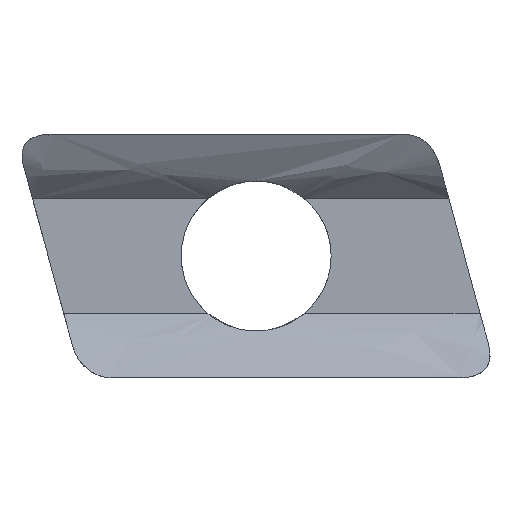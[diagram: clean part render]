
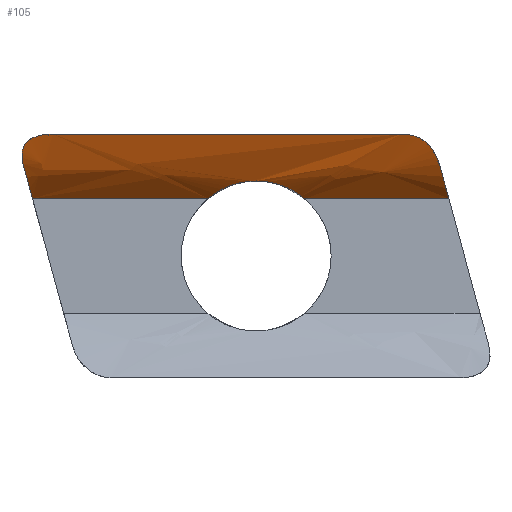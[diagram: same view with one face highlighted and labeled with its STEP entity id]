
A CAD part, top view. The second image highlights one B-rep face of the part: STEP entity #105.
In plain terms, the highlighted free-form (B-spline) face has degree [2, 1] with [3, 2] control points.
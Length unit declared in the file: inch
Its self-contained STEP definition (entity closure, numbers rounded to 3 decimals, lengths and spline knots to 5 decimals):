
#105=ADVANCED_FACE('',(#204),#205,.T.);
#204=FACE_OUTER_BOUND('',#1822,.T.);
#205=B_SPLINE_SURFACE_WITH_KNOTS('',2,1,((#1823,#1824),(#1825,#1826),(#1827,#1828)),.UNSPECIFIED.,.F.,.F.,.F.,(3,3),(2,2),(0.0,1.0),(0.0,0.79659),.UNSPECIFIED.);
#1822=EDGE_LOOP('',(#2046,#2047,#2048,#2049,#2050,#2051,#2052,#2053,#2054,#2055,#2056));
#1823=CARTESIAN_POINT('',(-0.14909,0.40601,0.14228));
#1824=CARTESIAN_POINT('',(0.6475,0.40601,0.14228));
#1825=CARTESIAN_POINT('',(-0.14909,0.3412,0.11913));
#1826=CARTESIAN_POINT('',(0.6475,0.3412,0.11913));
#1827=CARTESIAN_POINT('',(-0.14909,0.29872,0.0666));
#1828=CARTESIAN_POINT('',(0.6475,0.29872,0.0666));
#2046=ORIENTED_EDGE('',*,*,#2162,.T.);
#2047=ORIENTED_EDGE('',*,*,#2179,.T.);
#2048=ORIENTED_EDGE('',*,*,#2125,.T.);
#2049=ORIENTED_EDGE('',*,*,#2167,.T.);
#2050=ORIENTED_EDGE('',*,*,#2174,.F.);
#2051=ORIENTED_EDGE('',*,*,#2134,.T.);
#2052=ORIENTED_EDGE('',*,*,#2130,.T.);
#2053=ORIENTED_EDGE('',*,*,#2177,.T.);
#2054=ORIENTED_EDGE('',*,*,#2148,.T.);
#2055=ORIENTED_EDGE('',*,*,#2172,.T.);
#2056=ORIENTED_EDGE('',*,*,#2086,.T.);
#2086=EDGE_CURVE('',#2206,#2204,#2207,.T.);
#2125=EDGE_CURVE('',#2271,#2269,#2272,.T.);
#2130=EDGE_CURVE('',#2275,#2277,#2279,.T.);
#2134=EDGE_CURVE('',#2283,#2275,#2284,.T.);
#2148=EDGE_CURVE('',#2303,#2304,#2305,.T.);
#2162=EDGE_CURVE('',#2204,#2322,#2324,.T.);
#2167=EDGE_CURVE('',#2269,#2329,#2330,.T.);
#2172=EDGE_CURVE('',#2304,#2206,#2335,.T.);
#2174=EDGE_CURVE('',#2283,#2329,#2337,.T.);
#2177=EDGE_CURVE('',#2277,#2303,#2340,.T.);
#2179=EDGE_CURVE('',#2322,#2271,#2342,.T.);
#2204=VERTEX_POINT('',#2410);
#2206=VERTEX_POINT('',#2413);
#2207=B_SPLINE_CURVE_WITH_KNOTS('',3,(#2414,#2415,#2416,#2417,#2418,#2419,#2420,#2421),.UNSPECIFIED.,.F.,.F.,(4,2,2,4),(0.0,0.06845,0.11211,0.15591),.UNSPECIFIED.);
#2269=VERTEX_POINT('',#2742);
#2271=VERTEX_POINT('',#2745);
#2272=B_SPLINE_CURVE_WITH_KNOTS('',3,(#2746,#2747,#2748,#2749,#2750,#2751),.UNSPECIFIED.,.F.,.F.,(4,2,4),(-0.13499,-0.06887,-0.0),.UNSPECIFIED.);
#2275=VERTEX_POINT('',#2755);
#2277=VERTEX_POINT('',#2758);
#2279=B_SPLINE_CURVE_WITH_KNOTS('',2,(#2761,#2762,#2763),.UNSPECIFIED.,.F.,.F.,(3,3),(0.0,1.0),.UNSPECIFIED.);
#2283=VERTEX_POINT('',#2770);
#2284=B_SPLINE_CURVE_WITH_KNOTS('',3,(#2771,#2772,#2773,#2774,#2775,#2776,#2777,#2778,#2779,#2780),.UNSPECIFIED.,.F.,.F.,(4,2,2,2,4),(0.0,0.02752,0.04298,0.05524,0.06948),.UNSPECIFIED.);
#2303=VERTEX_POINT('',#2842);
#2304=VERTEX_POINT('',#2843);
#2305=B_SPLINE_CURVE_WITH_KNOTS('',3,(#2844,#2845,#2846,#2847),.UNSPECIFIED.,.F.,.F.,(4,4),(-0.08801,-0.0),.UNSPECIFIED.);
#2322=VERTEX_POINT('',#2896);
#2324=B_SPLINE_CURVE_WITH_KNOTS('',3,(#2901,#2902,#2903,#2904,#2905,#2906,#2907,#2908),.UNSPECIFIED.,.F.,.F.,(4,2,2,4),(0.0,0.05581,0.09761,0.14261),.UNSPECIFIED.);
#2329=VERTEX_POINT('',#3048);
#2330=B_SPLINE_CURVE_WITH_KNOTS('',3,(#3049,#3050,#3051,#3052,#3053,#3054,#3055,#3056,#3057,#3058),.UNSPECIFIED.,.F.,.F.,(4,2,2,2,4),(0.0,0.03512,0.05833,0.07586,0.09353),.UNSPECIFIED.);
#2335=LINE('',#3064,#3065);
#2337=LINE('',#3067,#3068);
#2340=B_SPLINE_CURVE_WITH_KNOTS('',3,(#3071,#3072,#3073,#3074),.UNSPECIFIED.,.F.,.F.,(4,4),(0.0,0.01259),.UNSPECIFIED.);
#2342=LINE('',#3076,#3077);
#2410=CARTESIAN_POINT('',(0.24126,0.328,0.09704));
#2413=CARTESIAN_POINT('',(0.16086,0.29872,0.0666));
#2414=CARTESIAN_POINT('',(0.16086,0.29872,0.0666));
#2415=CARTESIAN_POINT('',(0.16993,0.30635,0.07603));
#2416=CARTESIAN_POINT('',(0.18044,0.31297,0.08289));
#2417=CARTESIAN_POINT('',(0.19945,0.32112,0.09086));
#2418=CARTESIAN_POINT('',(0.20737,0.32365,0.09317));
#2419=CARTESIAN_POINT('',(0.22401,0.32712,0.09628));
#2420=CARTESIAN_POINT('',(0.2326,0.328,0.09704));
#2421=CARTESIAN_POINT('',(0.24126,0.328,0.09704));
#2742=CARTESIAN_POINT('',(0.54678,0.35598,0.11795));
#2745=CARTESIAN_POINT('',(0.56238,0.29872,0.0666));
#2746=CARTESIAN_POINT('',(0.56238,0.29872,0.0666));
#2747=CARTESIAN_POINT('',(0.55866,0.31238,0.08349));
#2748=CARTESIAN_POINT('',(0.55443,0.32791,0.09827));
#2749=CARTESIAN_POINT('',(0.5447,0.36362,0.12385));
#2750=CARTESIAN_POINT('',(0.53933,0.38333,0.13401));
#2751=CARTESIAN_POINT('',(0.53363,0.40422,0.14164));
#2755=CARTESIAN_POINT('',(-0.14909,0.37421,0.12846));
#2758=CARTESIAN_POINT('',(-0.14909,0.3667,0.12439));
#2761=CARTESIAN_POINT('',(-0.14909,0.40601,0.14228));
#2762=CARTESIAN_POINT('',(-0.14909,0.3412,0.11913));
#2763=CARTESIAN_POINT('',(-0.14909,0.29872,0.0666));
#2770=CARTESIAN_POINT('',(-0.09722,0.40601,0.14228));
#2771=CARTESIAN_POINT('',(-0.09722,0.40601,0.14228));
#2772=CARTESIAN_POINT('',(-0.1064,0.40601,0.14228));
#2773=CARTESIAN_POINT('',(-0.11627,0.4051,0.14197));
#2774=CARTESIAN_POINT('',(-0.12978,0.40065,0.14031));
#2775=CARTESIAN_POINT('',(-0.13439,0.3984,0.13945));
#2776=CARTESIAN_POINT('',(-0.14133,0.39275,0.13715));
#2777=CARTESIAN_POINT('',(-0.14377,0.38982,0.13592));
#2778=CARTESIAN_POINT('',(-0.14765,0.38259,0.13265));
#2779=CARTESIAN_POINT('',(-0.14871,0.37841,0.13064));
#2780=CARTESIAN_POINT('',(-0.14909,0.37421,0.12846));
#2842=CARTESIAN_POINT('',(-0.14722,0.35598,0.11795));
#2843=CARTESIAN_POINT('',(-0.13162,0.29872,0.0666));
#2844=CARTESIAN_POINT('',(-0.14909,0.36284,0.12216));
#2845=CARTESIAN_POINT('',(-0.14239,0.33825,0.10764));
#2846=CARTESIAN_POINT('',(-0.13657,0.3169,0.08908));
#2847=CARTESIAN_POINT('',(-0.13162,0.29872,0.0666));
#2896=CARTESIAN_POINT('',(0.32166,0.29872,0.0666));
#2901=CARTESIAN_POINT('',(0.24126,0.328,0.09704));
#2902=CARTESIAN_POINT('',(0.25361,0.328,0.09704));
#2903=CARTESIAN_POINT('',(0.26575,0.32619,0.09551));
#2904=CARTESIAN_POINT('',(0.28575,0.3202,0.08997));
#2905=CARTESIAN_POINT('',(0.29371,0.3168,0.08673));
#2906=CARTESIAN_POINT('',(0.30882,0.30857,0.07817));
#2907=CARTESIAN_POINT('',(0.31568,0.30375,0.07281));
#2908=CARTESIAN_POINT('',(0.32166,0.29872,0.0666));
#3048=CARTESIAN_POINT('',(0.48289,0.40601,0.14228));
#3049=CARTESIAN_POINT('',(0.54678,0.35598,0.11795));
#3050=CARTESIAN_POINT('',(0.54377,0.36553,0.12403));
#3051=CARTESIAN_POINT('',(0.5394,0.37531,0.12923));
#3052=CARTESIAN_POINT('',(0.52807,0.38943,0.1358));
#3053=CARTESIAN_POINT('',(0.52264,0.39428,0.13781));
#3054=CARTESIAN_POINT('',(0.51116,0.4008,0.14038));
#3055=CARTESIAN_POINT('',(0.50584,0.40282,0.14112));
#3056=CARTESIAN_POINT('',(0.49456,0.40544,0.14208));
#3057=CARTESIAN_POINT('',(0.48873,0.40601,0.14228));
#3058=CARTESIAN_POINT('',(0.48289,0.40601,0.14228));
#3064=CARTESIAN_POINT('',(-0.14909,0.29872,0.0666));
#3065=VECTOR('',#3114,1.);
#3067=CARTESIAN_POINT('',(-0.14909,0.40601,0.14228));
#3068=VECTOR('',#3115,1.);
#3071=CARTESIAN_POINT('',(-0.14909,0.3667,0.12439));
#3072=CARTESIAN_POINT('',(-0.14879,0.36305,0.12233));
#3073=CARTESIAN_POINT('',(-0.14811,0.35944,0.12016));
#3074=CARTESIAN_POINT('',(-0.14722,0.35598,0.11795));
#3076=CARTESIAN_POINT('',(-0.14909,0.29872,0.0666));
#3077=VECTOR('',#3116,1.);
#3114=DIRECTION('',(1.0,0.,0.0));
#3115=DIRECTION('',(1.0,0.,0.0));
#3116=DIRECTION('',(1.0,0.,0.0));
